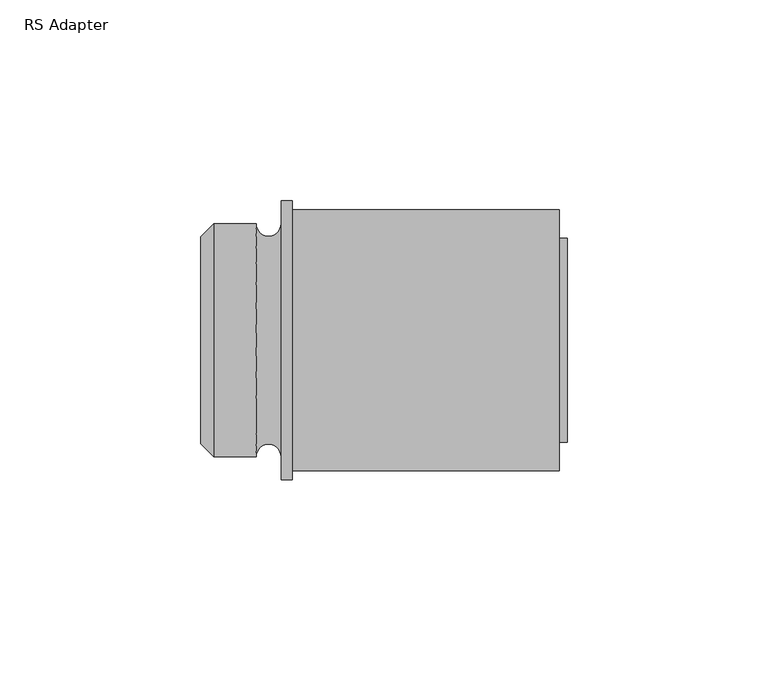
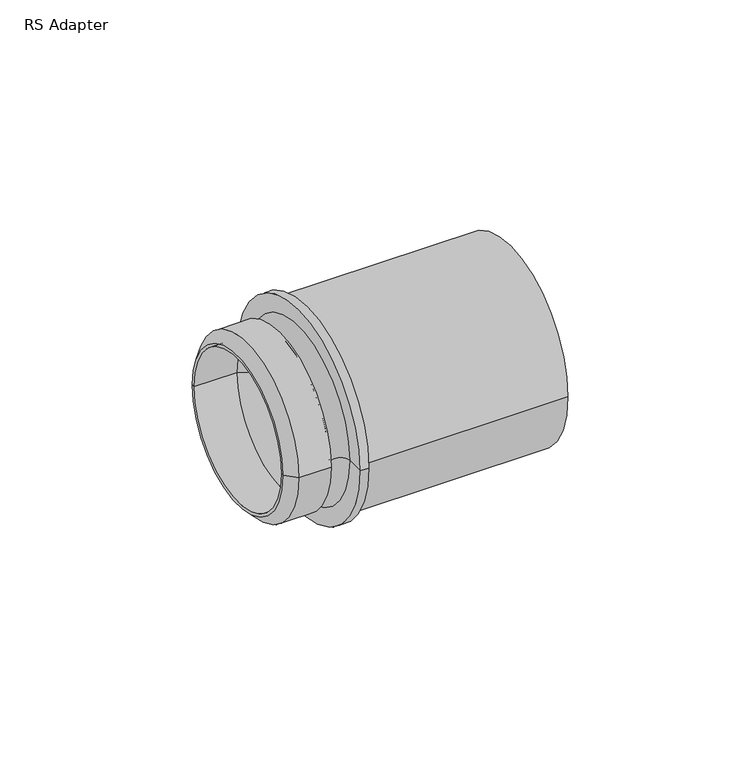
"""IFC4 building model written with IfcOpenShell, lengths in millimetres: pipe fitting geometry, RS Adapter : Superpipe RS Press Adapter."""

from ifc_helpers import new_model, si_unit, point, frame, origin, place, context, project, spatial, polyline, circle_curve, ellipse_curve, trimmed, source, transform, mapped, element, save
from ifc_brep_helpers import plane_surface, cylinder_surface, revolved_surface, advanced_brep


def rs_adapter_1ad0a11d(model_context):
    return source(origin(), model_context, "Body", "AdvancedBrep", [
        advanced_brep(
        [(89.3, -32.5, 0.0), (89.3, 32.5, 0.0), (89.3, 31.5, 0.0), (89.3, -31.5, 0.0), (22.8, 31.5, 0.0), (22.8, -31.5, 0.0), (22.8, 32.5, 0.0), (22.8, -32.5, 0.0)],
        [
            (0, 1, circle_curve(frame((89.3, 0.0, 0.0), z_axis=(1.0, 0.0, 0.0), x_axis=(0.0, 1.0, 0.0)), 32.5)),
            (1, 2),
            (2, 3, circle_curve(frame((89.3, 0.0, 0.0), z_axis=(-1.0, 0.0, 0.0), x_axis=(0.0, 1.0, 0.0)), 31.5)),
            (3, 0),
            (2, 4),
            (4, 5, circle_curve(frame((22.8, 0.0, 0.0), z_axis=(-1.0, 0.0, 0.0), x_axis=(0.0, 1.0, 0.0)), 31.5)),
            (5, 3),
            (4, 6),
            (6, 7, circle_curve(frame((22.8, 0.0, 0.0), z_axis=(-1.0, 0.0, 0.0), x_axis=(0.0, 1.0, 0.0)), 32.5)),
            (7, 5),
            (6, 1),
            (0, 7),
            (6, 7, circle_curve(frame((22.8, 0.0, 0.0), z_axis=(1.0, 0.0, 0.0), x_axis=(0.0, 1.0, 0.0)), 32.5)),
            (0, 1, circle_curve(frame((89.3, 0.0, 0.0), z_axis=(-1.0, 0.0, 0.0), x_axis=(0.0, 1.0, 0.0)), 32.5)),
            (4, 5, circle_curve(frame((22.8, 0.0, 0.0), z_axis=(1.0, 0.0, 0.0), x_axis=(0.0, 1.0, 0.0)), 31.5)),
            (2, 3, circle_curve(frame((89.3, 0.0, 0.0), z_axis=(1.0, 0.0, 0.0), x_axis=(0.0, 1.0, 0.0)), 31.5)),
        ],
        [
            plane_surface(frame((89.3, 0.0, 0.0), z_axis=(1.0, 0.0, 0.0), x_axis=(0.0, 1.0, 0.0))),
            revolved_surface(polyline([(22.799999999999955, 31.5, 0.0), (89.29999999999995, 31.5, 0.0)]), (2026.5, 0.0, 0.0), (-1.0, 0.0, 0.0)),
            plane_surface(frame((22.8, 0.0, 0.0), z_axis=(-1.0, 0.0, 0.0), x_axis=(0.0, 1.0, 0.0))),
            cylinder_surface(frame((2026.5, 0.0, 0.0), z_axis=(-1.0, 0.0, 0.0), x_axis=(0.0, 1.0, 0.0)), 32.5),
        ],
        [
            (0, [[1, 2, 3, 4]]),
            (1, [[-3, 5, 6, 7]]),
            (2, [[-6, 8, 9, 10]]),
            (3, [[-9, 11, -1, 12]]),
            (3, [[13, -12, 14, -11]]),
            (2, [[15, -10, -13, -8]]),
            (1, [[16, -7, -15, -5]]),
            (0, [[-14, -4, -16, -2]]),
        ],
    ),
        advanced_brep(
        [(91.3, -25.4, 0.0), (91.3, 25.4, 0.0), (91.3, 20.5, 0.0), (91.3, -20.5, 0.0), (22.8, 20.5, 0.0), (22.8, -20.5, 0.0), (22.8, 25.4, 0.0), (22.8, -25.4, 0.0)],
        [
            (0, 1, circle_curve(frame((91.3, 0.0, 0.0), z_axis=(1.0, 0.0, 0.0), x_axis=(0.0, 1.0, 0.0)), 25.4)),
            (1, 2),
            (2, 3, circle_curve(frame((91.3, 0.0, 0.0), z_axis=(-1.0, 0.0, 0.0), x_axis=(0.0, 1.0, 0.0)), 20.5)),
            (3, 0),
            (2, 4),
            (4, 5, circle_curve(frame((22.8, 0.0, 0.0), z_axis=(-1.0, 0.0, 0.0), x_axis=(0.0, 1.0, 0.0)), 20.5)),
            (5, 3),
            (4, 6),
            (6, 7, circle_curve(frame((22.8, 0.0, 0.0), z_axis=(-1.0, 0.0, 0.0), x_axis=(0.0, 1.0, 0.0)), 25.4)),
            (7, 5),
            (6, 1),
            (0, 7),
            (6, 7, circle_curve(frame((22.8, 0.0, 0.0), z_axis=(1.0, 0.0, 0.0), x_axis=(0.0, 1.0, 0.0)), 25.4)),
            (0, 1, circle_curve(frame((91.3, 0.0, 0.0), z_axis=(-1.0, 0.0, 0.0), x_axis=(0.0, 1.0, 0.0)), 25.4)),
            (4, 5, circle_curve(frame((22.8, 0.0, 0.0), z_axis=(1.0, 0.0, 0.0), x_axis=(0.0, 1.0, 0.0)), 20.5)),
            (2, 3, circle_curve(frame((91.3, 0.0, 0.0), z_axis=(1.0, 0.0, 0.0), x_axis=(0.0, 1.0, 0.0)), 20.5)),
        ],
        [
            plane_surface(frame((91.3, 0.0, 0.0), z_axis=(1.0, 0.0, 0.0), x_axis=(0.0, 1.0, 0.0))),
            revolved_surface(polyline([(22.799999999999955, 20.5, 0.0), (91.29999999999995, 20.5, 0.0)]), (2026.5, 0.0, 0.0), (-1.0, 0.0, 0.0)),
            plane_surface(frame((22.8, 0.0, 0.0), z_axis=(-1.0, 0.0, 0.0), x_axis=(0.0, 1.0, 0.0))),
            cylinder_surface(frame((2026.5, 0.0, 0.0), z_axis=(-1.0, 0.0, 0.0), x_axis=(0.0, 1.0, 0.0)), 25.4),
        ],
        [
            (0, [[1, 2, 3, 4]]),
            (1, [[-3, 5, 6, 7]]),
            (2, [[-6, 8, 9, 10]]),
            (3, [[-9, 11, -1, 12]]),
            (3, [[13, -12, 14, -11]]),
            (2, [[15, -10, -13, -8]]),
            (1, [[16, -7, -15, -5]]),
            (0, [[-14, -4, -16, -2]]),
        ],
    ),
        advanced_brep(
        [(20.0, -34.75, 0.0), (20.0, 34.75, 0.0), (22.8, 34.75, 0.0), (22.8, -34.75, 0.0), (20.0, -29.0, 0.0), (20.0, 29.0, 0.0), (22.8, 20.5, 0.0), (22.8, -20.5, 0.0), (0.0, -25.8, 0.0), (0.0, 25.8, 0.0), (3.2, 29.0, 0.0), (3.2, -29.0, 0.0), (0.0, -24.8, 0.0), (0.0, 24.8, 0.0), (13.8, -29.0, 0.0), (13.8, 29.0, 0.0), (14.0, -24.8, 0.0), (14.0, 24.8, 0.0)],
        [
            (0, 1, circle_curve(frame((20.0, 0.0, 0.0), z_axis=(1.0, 0.0, 0.0), x_axis=(0.0, 1.0, 0.0)), 34.75)),
            (1, 2),
            (2, 3, circle_curve(frame((22.8, 0.0, 0.0), z_axis=(-1.0, 0.0, 0.0), x_axis=(0.0, 1.0, 0.0)), 34.75)),
            (3, 0),
            (1, 0, circle_curve(frame((20.0, 0.0, 0.0), z_axis=(1.0, 0.0, 0.0), x_axis=(0.0, 1.0, 0.0)), 34.75)),
            (3, 2, circle_curve(frame((22.8, 0.0, 0.0), z_axis=(-1.0, 0.0, 0.0), x_axis=(0.0, 1.0, 0.0)), 34.75)),
            (0, 4),
            (4, 5, circle_curve(frame((20.0, 0.0, 0.0), z_axis=(1.0, 0.0, 0.0), x_axis=(0.0, 1.0, 0.0)), 29.0)),
            (5, 1),
            (5, 4, circle_curve(frame((20.0, 0.0, 0.0), z_axis=(1.0, 0.0, 0.0), x_axis=(0.0, 1.0, 0.0)), 29.0)),
            (2, 6),
            (6, 7, circle_curve(frame((22.8, 0.0, 0.0), z_axis=(-1.0, 0.0, 0.0), x_axis=(0.0, 1.0, 0.0)), 20.5)),
            (7, 3),
            (7, 6, circle_curve(frame((22.8, 0.0, 0.0), z_axis=(-1.0, 0.0, 0.0), x_axis=(0.0, 1.0, 0.0)), 20.5)),
            (8, 9, circle_curve(frame((0.0, 0.0, 0.0), z_axis=(1.0, 0.0, 0.0), x_axis=(0.0, 1.0, 0.0)), 25.8)),
            (9, 10),
            (10, 11, circle_curve(frame((3.2, 0.0, 0.0), z_axis=(-1.0, 0.0, 0.0), x_axis=(0.0, 1.0, 0.0)), 29.0)),
            (11, 8),
            (9, 8, circle_curve(frame((0.0, 0.0, 0.0), z_axis=(1.0, 0.0, 0.0), x_axis=(0.0, 1.0, 0.0)), 25.8)),
            (11, 10, circle_curve(frame((3.2, 0.0, 0.0), z_axis=(-1.0, 0.0, 0.0), x_axis=(0.0, 1.0, 0.0)), 29.0)),
            (8, 12),
            (12, 13, circle_curve(frame((0.0, 0.0, 0.0), z_axis=(1.0, 0.0, 0.0), x_axis=(0.0, 1.0, 0.0)), 24.8)),
            (13, 9),
            (13, 12, circle_curve(frame((0.0, 0.0, 0.0), z_axis=(1.0, 0.0, 0.0), x_axis=(0.0, 1.0, 0.0)), 24.8)),
            (4, 14, circle_curve(frame((16.9, -29.0, 0.0), z_axis=(0.0, 0.0, 1.0), x_axis=(1.0, 0.0, 0.0)), 3.1)),
            (14, 15, circle_curve(frame((13.8, 0.0, 0.0), z_axis=(1.0, 0.0, 0.0), x_axis=(0.0, 1.0, 0.0)), 29.0)),
            (15, 5, circle_curve(frame((16.9, 29.0, 0.0), z_axis=(0.0, 0.0, 1.0), x_axis=(1.0, 0.0, 0.0)), 3.1)),
            (15, 14, circle_curve(frame((13.8, 0.0, 0.0), z_axis=(1.0, 0.0, 0.0), x_axis=(0.0, 1.0, 0.0)), 29.0)),
            (10, 15),
            (14, 11),
            (12, 16),
            (16, 17, circle_curve(frame((14.0, 0.0, 0.0), z_axis=(1.0, 0.0, 0.0), x_axis=(0.0, 1.0, 0.0)), 24.8)),
            (17, 13),
            (17, 16, circle_curve(frame((14.0, 0.0, 0.0), z_axis=(1.0, 0.0, 0.0), x_axis=(0.0, 1.0, 0.0)), 24.8)),
            (16, 7),
            (6, 17),
        ],
        [
            cylinder_surface(frame((2011.3, 0.0, 0.0), z_axis=(-1.0, 0.0, 0.0), x_axis=(0.0, 1.0, 0.0)), 34.75),
            plane_surface(frame((20.0, 0.0, 0.0), z_axis=(-1.0, 0.0, 0.0), x_axis=(0.0, 1.0, 0.0))),
            plane_surface(frame((22.8, 0.0, 0.0), z_axis=(1.0, 0.0, 0.0), x_axis=(0.0, 1.0, 0.0))),
            revolved_surface(polyline([(3.2, 29.0, 0.0), (0.0, 25.8, 0.0)]), (2011.3, 0.0, 0.0), (-1.0, 0.0, 0.0)),
            plane_surface(frame((0.0, 0.0, 0.0), z_axis=(-1.0, 0.0, 0.0), x_axis=(0.0, 1.0, 0.0))),
            revolved_surface(trimmed(ellipse_curve(frame((16.9, 29.0, 0.0), z_axis=(0.0, 0.0, -1.0), x_axis=(1.0, 0.0, 0.0)), 3.1, 3.1), [point((20.0, 29.0, 0.0))], [point((13.8, 29.0, 0.0))], True, "CARTESIAN"), (2011.3, 0.0, 0.0), (-1.0, 0.0, 0.0)),
            cylinder_surface(frame((2011.3, 0.0, 0.0), z_axis=(-1.0, 0.0, 0.0), x_axis=(0.0, 1.0, 0.0)), 29.0),
            revolved_surface(polyline([(0.0, 24.8, 0.0), (14.0, 24.8, 0.0)]), (2037.5, 0.0, 0.0), (-1.0, 0.0, 0.0)),
            revolved_surface(polyline([(14.0, 24.8, 0.0), (22.8, 20.5, 0.0)]), (2037.5, 0.0, 0.0), (-1.0, 0.0, 0.0)),
        ],
        [
            (0, [[1, 2, 3, 4]]),
            (0, [[-2, 5, -4, 6]]),
            (1, [[-1, 7, 8, 9]]),
            (1, [[-5, -9, 10, -7]]),
            (2, [[-3, 11, 12, 13]]),
            (2, [[-6, -13, 14, -11]]),
            (3, [[15, 16, 17, 18]]),
            (3, [[-16, 19, -18, 20]]),
            (4, [[-15, 21, 22, 23]]),
            (4, [[-19, -23, 24, -21]]),
            (5, [[-8, 25, 26, 27]]),
            (5, [[-10, -27, 28, -25]]),
            (6, [[-17, 29, -26, 30]]),
            (6, [[-20, -30, -28, -29]]),
            (7, [[31, 32, 33, -22]]),
            (7, [[-31, -24, -33, 34]]),
            (8, [[-32, 35, -12, 36]]),
            (8, [[-34, -36, -14, -35]]),
        ],
    ),
    ])


if __name__ == "__main__":
    model = new_model("IFC4")
    model_context = context("Model", 3, world=origin())
    ifc_project = project(units=[si_unit("LENGTHUNIT", "METRE", prefix="MILLI")], contexts=[model_context])
    site = spatial("IfcSite", under=ifc_project)
    building = spatial("IfcBuilding", under=site)
    placement = place(None, origin())
    rs_adapter_shape = rs_adapter_1ad0a11d(model_context)
    element("IfcPipeFitting", 1, ObjectType="RS Adapter : Superpipe RS Press Adapter", at=placement, inside=building, context=model_context, shape_type="MappedRepresentation", body=[
        mapped(rs_adapter_shape, transform((0.0, 0.0, 0.0), x_axis=(1.0, 0.0, 0.0), y_axis=(0.0, 1.0, 0.0), z_axis=(0.0, 0.0, 1.0))),
    ])
    save(model, "model.ifc")
